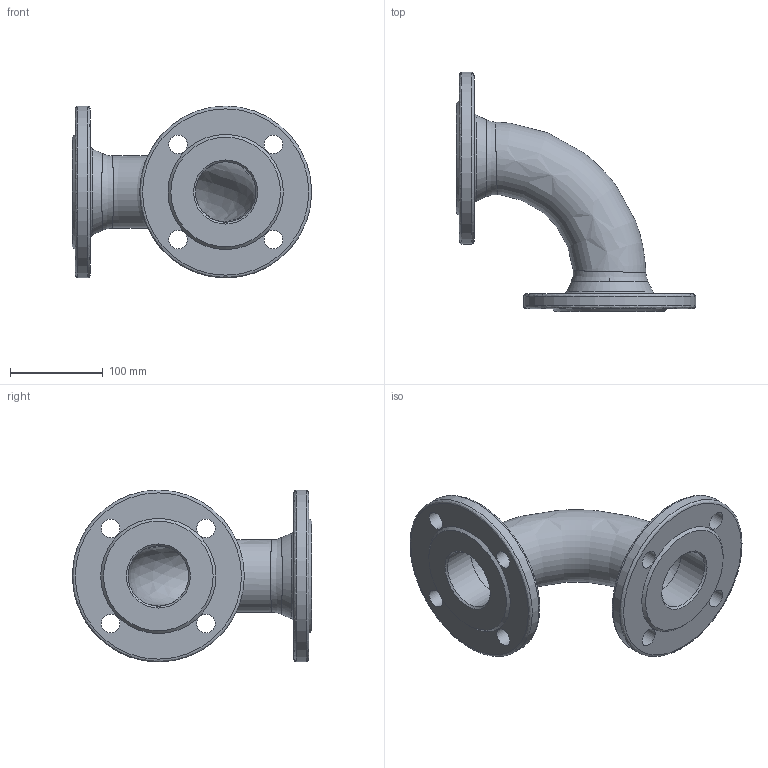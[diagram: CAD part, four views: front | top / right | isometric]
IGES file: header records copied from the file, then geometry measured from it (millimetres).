
Start section: SolidWorks IGES file using analytic representation for surfaces
Global section: file name: \\avksan2\techshare\PBM outline export from Enovia\O_712_0610_DN65_1X_REV01.igs; native system: SolidWorks 2019; preprocessor: SolidWorks 2019; author: pbm; date: 211119.105126; units: millimetre
Bounding box: 257.5 x 257.5 x 185 mm (x, y, z)
Surface area: 221991.9 mm2 (no closed solid volume)
Topology: 0 solids, 0 shells, 112 faces, 1165 edges, 1137 vertices
Faces by surface type: revolution 69, bspline 43
